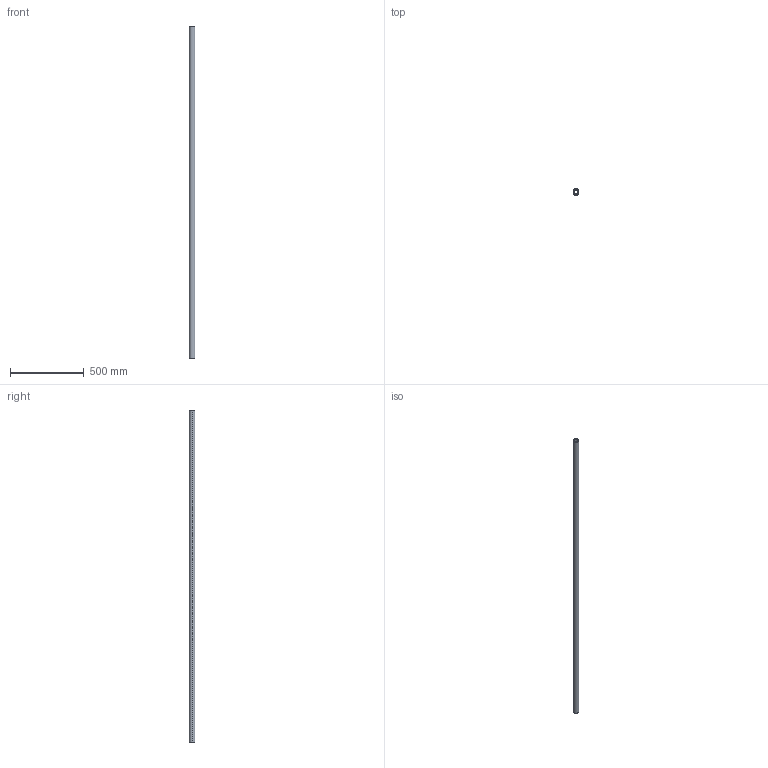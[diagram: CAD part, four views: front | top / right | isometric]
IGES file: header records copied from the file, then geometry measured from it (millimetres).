
Start section: SolidWorks IGES file using analytic representation for surfaces
Global section: file name: C:\Users\IanO\Desktop\L1771_v2\L1771.40_v2\L1771.40_v2_20230705_IGES\L1771.40-2250.igs; native system: SolidWorks 2019; preprocessor: SolidWorks 2019; author: IanO; date: 230705.161128; units: millimetre
Bounding box: 40 x 40 x 2250 mm (x, y, z)
Surface area: 481945.4 mm2 (no closed solid volume)
Topology: 0 solids, 0 shells, 6 faces, 272 edges, 272 vertices
Faces by surface type: revolution 4, bspline 2
